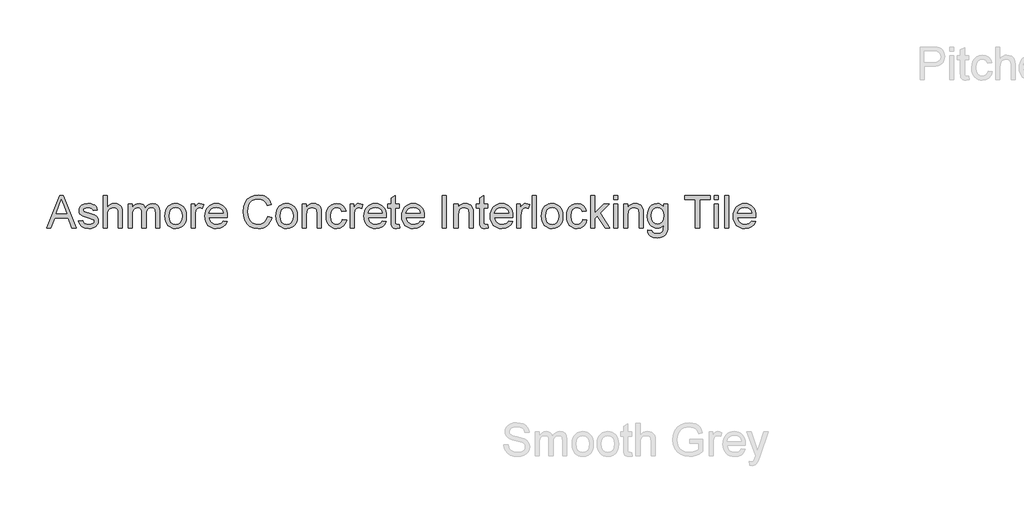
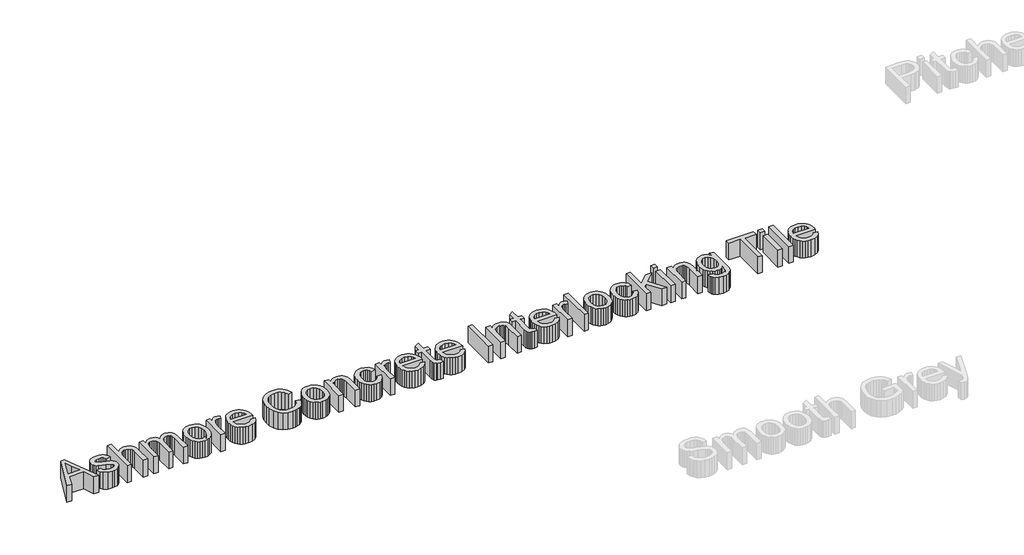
# One storey, part 2 of 4: 1 proxy.
"""IFC4 building model written with IfcOpenShell, lengths in millimetres."""

import ifcopenshell
import ifcopenshell.guid

model = None  # the IFC model being written
_history = None  # IfcOwnerHistory: only IFC2X3 demands one
_inside = {}  # id of a spatial element -> (the spatial element, [elements in it])
_under = {}  # id of a project, library or spatial element -> (it, [spatial elements below it])
_declared = {}  # id of a project -> (the project, [libraries it declares])
_typed = {}  # id of a type object -> (the type object, [elements of that type])
_made_of = {}  # id of a material, layer set ... -> (it, [elements and type objects made of it])


def new_model(schema):
    """Start an empty IFC model of exactly this schema.

    Asked for "IFC4X3", IfcOpenShell would pick the latest addendum, in which some entities
    have other attributes; the version numbers below select the first issue.
    IFC2X3 requires an IfcOwnerHistory on every rooted entity: one is made here for all.
    """
    global model, _history
    if schema == "IFC4X3":
        model = ifcopenshell.file(schema_version=(4, 3, 0, 0))
    else:
        model = ifcopenshell.file(schema=schema)
    _inside.clear()
    _under.clear()
    _declared.clear()
    _typed.clear()
    _made_of.clear()
    _history = None
    if model.schema == "IFC2X3":
        org = make("IfcOrganization", Name="unknown")
        user = make(
            "IfcPersonAndOrganization",
            ThePerson=make("IfcPerson", FamilyName="unknown"),
            TheOrganization=org,
        )
        app = make(
            "IfcApplication",
            ApplicationDeveloper=org,
            Version="unknown",
            ApplicationFullName="unknown",
            ApplicationIdentifier="unknown",
        )
        _history = make(
            "IfcOwnerHistory",
            OwningUser=user,
            OwningApplication=app,
            ChangeAction="ADDED",
            CreationDate=0,
        )
    return model


def make(cls, **values):
    """One entity of the class cls with the attributes given. An attribute that is None is left unset."""
    return model.create_entity(
        cls, **{name: value for name, value in values.items() if value is not None}
    )


def rooted(cls, **values):
    """An entity with a GlobalId (a new one), such as an element, a storey or a relation."""
    return make(cls, GlobalId=ifcopenshell.guid.new(), OwnerHistory=_history, **values)


def si_unit(unit_type, name, prefix=None):
    """IfcSIUnit, for example si_unit("LENGTHUNIT", "METRE", prefix="MILLI")."""
    return make("IfcSIUnit", UnitType=unit_type, Prefix=prefix, Name=name)


def assignment(units):
    """IfcUnitAssignment: the units of a project."""
    return None if units is None else make("IfcUnitAssignment", Units=units)


def point(xyz):
    """IfcCartesianPoint."""
    return None if xyz is None else make("IfcCartesianPoint", Coordinates=xyz)


def direction(xyz):
    """IfcDirection."""
    return None if xyz is None else make("IfcDirection", DirectionRatios=xyz)


def frame(location, z_axis=None, x_axis=None):
    """IfcAxis2Placement3D, a coordinate frame: its origin and axes. An axis left out is left unset."""
    return make(
        "IfcAxis2Placement3D",
        Location=point(location),
        Axis=direction(z_axis),
        RefDirection=direction(x_axis),
    )


def origin():
    """The frame at (0, 0, 0) with its axes left unset."""
    return frame((0.0, 0.0, 0.0))


def place(relative_to, where):
    """IfcLocalPlacement: puts the frame where relative to a parent placement (None: the world)."""
    return make(
        "IfcLocalPlacement", PlacementRelTo=relative_to, RelativePlacement=where
    )


def context(
    kind, dimensions, precision=None, world=None, true_north=None, identifier=None
):
    """IfcGeometricRepresentationContext, for example the 3D "Model" context."""
    return make(
        "IfcGeometricRepresentationContext",
        ContextIdentifier=identifier,
        ContextType=kind,
        CoordinateSpaceDimension=dimensions,
        Precision=precision,
        WorldCoordinateSystem=world,
        TrueNorth=true_north,
    )


def project(units=None, contexts=None):
    """IfcProject with its units and contexts."""
    return rooted(
        "IfcProject",
        Name="project",
        RepresentationContexts=contexts,
        UnitsInContext=assignment(units),
    )


def spatial(cls, under=None, at=None, **own):
    """A site, building, storey or space (cls), placed at a placement, below another one or the project."""
    s = rooted(cls, ObjectPlacement=at, **own)
    if under is not None:
        _under.setdefault(under.id(), (under, []))[1].append(s)
    return s


def polyline(points):
    """IfcPolyline through the points."""
    return make("IfcPolyline", Points=[point(p) for p in points])


def outline(outer, holes=None, kind="AREA"):
    """IfcArbitraryClosedProfileDef: a profile drawn as a closed curve; with holes, ...WithVoids."""
    if holes is None:
        return make("IfcArbitraryClosedProfileDef", ProfileType=kind, OuterCurve=outer)
    return make(
        "IfcArbitraryProfileDefWithVoids",
        ProfileType=kind,
        OuterCurve=outer,
        InnerCurves=holes,
    )


def extrude(swept, where, along, depth):
    """IfcExtrudedAreaSolid: the profile swept, set in the frame where, extruded along a direction by depth."""
    return make(
        "IfcExtrudedAreaSolid",
        SweptArea=swept,
        Position=where,
        ExtrudedDirection=direction(along),
        Depth=depth,
    )


def shape(context_of_items, identifier, shape_type, items):
    """IfcShapeRepresentation: the items that make up one representation, for example the "Body"."""
    return make(
        "IfcShapeRepresentation",
        ContextOfItems=context_of_items,
        RepresentationIdentifier=identifier,
        RepresentationType=shape_type,
        Items=items,
    )


def made_of(thing, what):
    """Note that an element or type object is made of a material, layer set ...; save() writes the relation."""
    if what is not None:
        _made_of.setdefault(what.id(), (what, []))[1].append(thing)
    return thing


def element(
    cls,
    number,
    at=None,
    inside=None,
    cuts=None,
    type_object=None,
    material=None,
    context=None,
    identifier="Body",
    shape_type=None,
    held_by="IfcProductDefinitionShape",
    body=None,
    shapes=None,
    **own,
):
    """One element of the class cls, such as IfcWall. Its Tag is "e" and its number.

    at: its placement. inside: the storey or other place that contains it. cuts: it is an
    opening in that element (IfcRelVoidsElement). A single representation is given by context,
    identifier, shape_type and body (its items); several are given by shapes. held_by: the class
    of the entity that holds the representations. save() writes the other relations.
    """
    e = rooted(cls, Tag="e%d" % number, ObjectPlacement=at, **own)
    if body is not None:
        shapes = [shape(context, identifier, shape_type, body)]
    if shapes is not None:
        e.Representation = make(held_by, Representations=shapes)
    if inside is not None:
        _inside.setdefault(inside.id(), (inside, []))[1].append(e)
    if cuts is not None:
        rooted(
            "IfcRelVoidsElement", RelatingBuildingElement=cuts, RelatedOpeningElement=e
        )
    if type_object is not None:
        _typed.setdefault(type_object.id(), (type_object, []))[1].append(e)
    return made_of(e, material)


def aggregate(whole, parts):
    """IfcRelAggregates: a whole, such as a stair, and the parts it consists of."""
    return rooted("IfcRelAggregates", RelatingObject=whole, RelatedObjects=parts)


def save(model, path):
    """Write the relations noted so far, then the file.

    IfcRelAggregates (storeys below a building ...), IfcRelContainedInSpatialStructure (elements
    in a storey), IfcRelDefinesByType, IfcRelAssociatesMaterial and IfcRelDeclares: one each for
    every whole, place, type object, material and project.
    """
    for whole, parts in _under.values():
        aggregate(whole, parts)
    for where, things in _inside.values():
        rooted(
            "IfcRelContainedInSpatialStructure",
            RelatedElements=things,
            RelatingStructure=where,
        )
    for kind, things in _typed.values():
        rooted("IfcRelDefinesByType", RelatedObjects=things, RelatingType=kind)
    for what, things in _made_of.values():
        rooted("IfcRelAssociatesMaterial", RelatedObjects=things, RelatingMaterial=what)
    for by, libraries in _declared.values():
        rooted("IfcRelDeclares", RelatingContext=by, RelatedDefinitions=libraries)
    model.write(path)


model = new_model("IFC4")

# Units and contexts
model_context = context("Model", 3, world=origin())
ifc_project = project(units=[si_unit("LENGTHUNIT", "METRE", prefix="MILLI")], contexts=[model_context])

# Site, building, storey
site = spatial("IfcSite", under=ifc_project)
building = spatial("IfcBuilding", under=site)
storey = spatial("IfcBuildingStorey", under=building, Name="Marley Concrete Interlocking Tiles", Elevation=3000.0)

# Proxy
placement = place(None, origin())
element("IfcBuildingElementProxy", 1, Name="600mm Arial", ObjectType="600mm Arial", at=placement, inside=storey, context=model_context, shape_type="SweptSolid", body=[
    extrude(outline(polyline([(-17060.9563584, 2995.6508715), (-16943.0477045, 3291.0354869), (-16911.6053968, 3291.0354869), (-16793.696743, 2995.6508715), (-16832.7111661, 2995.6508715), (-16866.5332814, 3087.9585638), (-16988.1919353, 3087.9585638), (-17021.9419353, 2995.6508715), (-17060.9563584, 2995.6508715)]), holes=[polyline([(-16974.634243, 3124.8816408), (-16880.0188584, 3124.8816408), (-16906.6294353, 3197.5018331), (-16927.3265507, 3254.11241), (-16945.7159737, 3203.8479869), (-16974.634243, 3124.8816408)])]), frame((0.0, 0.0, 3000.0), z_axis=(0.0, 0.0, 1.0), x_axis=(1.0, 0.0, 0.0)), (0.0, 0.0, 1.0), 150.0),
    extrude(outline(polyline([(-16772.7111661, 3060.2662561), (-16735.7880891, 3064.8816408), (-16729.9647718, 3049.0883715), (-16718.696743, 3037.4777946), (-16701.9118872, 3030.3383715), (-16679.5380891, 3027.9585638), (-16657.4347237, 3030.1400542), (-16641.8938584, 3036.6845254), (-16632.6991468, 3046.1676984), (-16629.634243, 3057.1652946), (-16632.7171757, 3066.5763523), (-16641.9659737, 3073.7518331), (-16679.9707814, 3084.2806792), (-16735.571743, 3102.3455831), (-16749.6432574, 3111.4231071), (-16759.8385699, 3123.4393331), (-16766.0314786, 3137.628035), (-16768.0957814, 3153.2229869), (-16766.4371276, 3167.5288763), (-16761.4611661, 3180.7350061), (-16753.618618, 3192.3185398), (-16743.3602045, 3201.7566408), (-16719.8866468, 3212.6821215), (-16688.1198199, 3217.1893331), (-16664.087368, 3215.377434), (-16643.1919353, 3209.9417369), (-16626.3890507, 3201.4140927), (-16614.634243, 3190.3263523), (-16606.8457814, 3175.8582033), (-16601.9419353, 3157.1893331), (-16638.8650122, 3152.5739484), (-16643.5254689, 3164.1935398), (-16652.7472237, 3172.9465446), (-16666.6204209, 3178.4363283), (-16685.2352045, 3180.2662561), (-16706.4371276, 3178.5174581), (-16720.571743, 3173.2710638), (-16728.5224641, 3165.6989484), (-16731.1727045, 3156.9729869), (-16726.7736661, 3146.2277946), (-16712.9996276, 3138.0787561), (-16681.196743, 3130.2181792), (-16627.0020314, 3112.8383715), (-16612.6871276, 3104.5270734), (-16601.8337622, 3093.1508715), (-16594.9918151, 3078.6737081), (-16592.7111661, 3061.0595254), (-16595.3884497, 3042.8503908), (-16603.4203007, 3025.7229869), (-16616.5002286, 3011.0204629), (-16634.321743, 3000.0859677), (-16655.8481853, 2993.2981071), (-16680.0428968, 2991.0354869), (-16717.2724641, 2995.3984677), (-16744.4419353, 3008.48741), (-16762.5789545, 3030.1580831), (-16772.7111661, 3060.2662561)])), frame((0.0, 0.0, 3000.0), z_axis=(0.0, 0.0, 1.0), x_axis=(1.0, 0.0, 0.0)), (0.0, 0.0, 1.0), 150.0),
    extrude(outline(polyline([(-16551.1727045, 2995.6508715), (-16551.1727045, 3291.0354869), (-16514.2496276, 3291.0354869), (-16514.2496276, 3182.4297177), (-16500.6874281, 3197.6370494), (-16485.4575603, 3208.4994292), (-16468.5600242, 3215.0168571), (-16449.9948199, 3217.1893331), (-16427.6931372, 3214.8185398), (-16408.5284737, 3207.70616), (-16393.4383295, 3196.4110879), (-16383.3602045, 3181.4922177), (-16377.681118, 3160.9934196), (-16375.7880891, 3132.9585638), (-16375.7880891, 2995.6508715), (-16412.7111661, 2995.6508715), (-16412.7111661, 3129.1364484), (-16415.649868, 3152.2494292), (-16424.4659737, 3168.0787561), (-16438.6727045, 3177.2193811), (-16457.7832814, 3180.2662561), (-16473.3872478, 3178.2109677), (-16488.0356853, 3172.0451023), (-16500.1690987, 3162.3636119), (-16508.227993, 3149.7614484), (-16512.7442189, 3133.0126504), (-16514.2496276, 3110.8912561), (-16514.2496276, 2995.6508715), (-16551.1727045, 2995.6508715)])), frame((0.0, 0.0, 3000.0), z_axis=(0.0, 0.0, 1.0), x_axis=(1.0, 0.0, 0.0)), (0.0, 0.0, 1.0), 150.0),
    extrude(outline(polyline([(-16325.0188584, 2995.6508715), (-16325.0188584, 3212.5739484), (-16288.0957814, 3212.5739484), (-16288.0957814, 3176.8768331), (-16276.9900122, 3193.2740686), (-16262.7111661, 3206.1196215), (-16245.7460218, 3214.4219052), (-16226.5813584, 3217.1893331), (-16206.0465026, 3214.3678186), (-16189.5861661, 3205.9032754), (-16177.290493, 3192.3545975), (-16169.2496276, 3174.2806792), (-16155.7910939, 3193.0532153), (-16140.4395314, 3206.4621696), (-16123.1949401, 3214.5075422), (-16104.0573199, 3217.1893331), (-16076.3019112, 3212.7271936), (-16055.7760699, 3199.3407754), (-16043.0927766, 3176.6695013), (-16038.8650122, 3144.3527946), (-16038.8650122, 2995.6508715), (-16075.7880891, 2995.6508715), (-16075.7880891, 3128.48741), (-16079.2135699, 3159.3167369), (-16084.0272718, 3167.8173379), (-16091.6174161, 3174.4970254), (-16101.3800362, 3178.8239484), (-16112.7111661, 3180.2662561), (-16132.7141709, 3176.5703427), (-16149.0212622, 3165.4826023), (-16159.8656132, 3146.2458234), (-16163.4803968, 3118.1027946), (-16163.4803968, 2995.6508715), (-16200.4034737, 2995.6508715), (-16200.4034737, 3132.5979869), (-16202.539892, 3153.4753908), (-16208.9491468, 3168.3672177), (-16220.2261901, 3177.2914965), (-16236.9659737, 3180.2662561), (-16251.1907334, 3178.2830831), (-16264.2977045, 3172.3335638), (-16275.1150122, 3162.5619292), (-16282.4707814, 3149.11241), (-16286.6895314, 3130.4525542), (-16288.0957814, 3105.04991), (-16288.0957814, 2995.6508715), (-16325.0188584, 2995.6508715)])), frame((0.0, 0.0, 3000.0), z_axis=(0.0, 0.0, 1.0), x_axis=(1.0, 0.0, 0.0)), (0.0, 0.0, 1.0), 150.0),
    extrude(outline(polyline([(-15992.7111661, 3104.11241), (-15990.7144713, 3132.2058595), (-15984.7243872, 3156.4140927), (-15974.7409136, 3176.7371095), (-15960.7640507, 3193.17491), (-15946.6925362, 3203.6812201), (-15931.1606853, 3211.1857273), (-15914.1684978, 3215.6884316), (-15895.7159737, 3217.1893331), (-15875.3456312, 3215.3616588), (-15856.9269112, 3209.8786359), (-15840.4598139, 3200.7402646), (-15825.9443391, 3187.9465446), (-15814.0971336, 3171.9301684), (-15805.6348439, 3153.1238283), (-15800.5574701, 3131.5275242), (-15798.8650122, 3107.1412561), (-15801.8578007, 3069.8395734), (-15810.8361661, 3041.4441408), (-15825.5386901, 3020.1791167), (-15845.7039545, 3004.26866), (-15869.6552766, 2994.3437802), (-15895.7159737, 2991.0354869), (-15916.3837923, 2992.8564004), (-15934.9737862, 2998.3191408), (-15951.4859557, 3007.4237081), (-15965.9203007, 3020.1701023), (-15977.6413043, 3036.3419773), (-15986.0134497, 3055.7229869), (-15991.036737, 3078.3131311), (-15992.7111661, 3104.11241)]), holes=[polyline([(-15955.7880891, 3104.1845254), (-15951.5152526, 3070.768059), (-15938.696743, 3046.9609677), (-15919.4058776, 3032.7091648), (-15895.7159737, 3027.9585638), (-15872.134243, 3032.7362081), (-15852.8794353, 3047.0691408), (-15840.0609257, 3071.1917369), (-15835.7880891, 3105.3383715), (-15840.0879689, 3137.7812802), (-15852.9876084, 3161.2638523), (-15872.2694593, 3175.5156552), (-15895.7159737, 3180.2662561), (-15919.4058776, 3175.533684), (-15938.696743, 3161.3359677), (-15951.5152526, 3137.5829629), (-15955.7880891, 3104.1845254)])]), frame((0.0, 0.0, 3000.0), z_axis=(0.0, 0.0, 1.0), x_axis=(1.0, 0.0, 0.0)), (0.0, 0.0, 1.0), 150.0),
    extrude(outline(polyline([(-15757.3265507, 2995.6508715), (-15757.3265507, 3212.5739484), (-15725.0188584, 3212.5739484), (-15725.0188584, 3180.4826023), (-15713.0837622, 3199.0883715), (-15702.0861661, 3210.04991), (-15691.0525122, 3215.4044773), (-15679.009243, 3217.1893331), (-15660.6198199, 3214.3407754), (-15641.9419353, 3205.7951023), (-15654.2736661, 3172.6941408), (-15667.2544353, 3178.3732273), (-15680.2352045, 3180.2662561), (-15691.2598439, 3178.4453427), (-15701.1126084, 3172.9826023), (-15709.0723439, 3164.2926984), (-15714.4178968, 3152.7902946), (-15718.9070795, 3132.1652946), (-15720.4034737, 3109.6652946), (-15720.4034737, 2995.6508715), (-15757.3265507, 2995.6508715)])), frame((0.0, 0.0, 3000.0), z_axis=(0.0, 0.0, 1.0), x_axis=(1.0, 0.0, 0.0)), (0.0, 0.0, 1.0), 150.0),
    extrude(outline(polyline([(-15466.9900122, 3060.2662561), (-15430.7880891, 3055.6508715), (-15443.8319593, 3028.3732273), (-15464.6462622, 3007.9826023), (-15492.7622478, 2995.2722658), (-15527.7111661, 2991.0354869), (-15550.6213223, 2992.8631612), (-15571.0344834, 2998.346184), (-15588.9506492, 3007.4845554), (-15604.3698199, 3020.2782754), (-15616.7691588, 3036.3712742), (-15625.6258295, 3055.4074821), (-15630.9398319, 3077.3868992), (-15632.7111661, 3102.3095254), (-15630.9218031, 3128.0772537), (-15625.5537141, 3150.7890927), (-15616.6068992, 3170.4450422), (-15604.0813584, 3187.0451023), (-15588.7027526, 3200.2332033), (-15571.196743, 3209.6532754), (-15551.5633295, 3215.3053186), (-15529.8025122, 3217.1893331), (-15508.7425663, 3215.3098258), (-15489.6973439, 3209.6713042), (-15472.6668451, 3200.2737682), (-15457.6510699, 3187.1172177), (-15445.3937081, 3170.5532153), (-15436.6384497, 3150.9333234), (-15431.3852947, 3128.2575422), (-15429.634243, 3102.5258715), (-15429.8505891, 3092.5739484), (-15595.7880891, 3092.5739484), (-15589.3968632, 3064.9357273), (-15574.5501084, 3044.6172177), (-15553.1228247, 3032.1232273), (-15526.9900122, 3027.9585638), (-15507.3385699, 3029.8876504), (-15490.7880891, 3035.67491), (-15477.3385699, 3045.6809196), (-15466.9900122, 3060.2662561)]), holes=[polyline([(-15595.7880891, 3129.4970254), (-15466.5573199, 3129.4970254), (-15471.5513103, 3149.0042369), (-15481.3409737, 3162.9585638), (-15502.8674161, 3175.9393331), (-15529.946743, 3180.2662561), (-15554.8355651, 3176.8137321), (-15575.415493, 3166.45616), (-15589.7213824, 3150.3113283), (-15595.7880891, 3129.4970254)])]), frame((0.0, 0.0, 3000.0), z_axis=(0.0, 0.0, 1.0), x_axis=(1.0, 0.0, 0.0)), (0.0, 0.0, 1.0), 150.0),
    extrude(outline(polyline([(-15065.0188584, 3100.6508715), (-15028.0957814, 3091.1316408), (-15035.4019713, 3068.1696516), (-15045.1330411, 3048.1057994), (-15057.2889906, 3030.9400843), (-15071.8698199, 3016.6725061), (-15088.5465026, 3005.4563102), (-15106.9900122, 2997.4447417), (-15127.2003487, 2992.6378006), (-15149.1775122, 2991.0354869), (-15192.0050362, 2995.8852465), (-15226.0164545, 3010.4345254), (-15252.0861661, 3034.1785158), (-15271.0885699, 3066.61241), (-15282.6901324, 3104.7434196), (-15286.5573199, 3145.5787561), (-15282.1853247, 3188.6496696), (-15269.0693391, 3225.8431792), (-15247.8944593, 3255.9783956), (-15219.3457814, 3277.8744292), (-15185.4876084, 3291.2067609), (-15148.384243, 3295.6508715), (-15107.9004689, 3289.8996696), (-15090.2885399, 3282.7106672), (-15074.4299161, 3272.6460638), (-15060.5860158, 3259.971785), (-15049.0182574, 3244.9537561), (-15032.7111661, 3207.8864484), (-15069.634243, 3199.0883715), (-15082.4347237, 3226.0144533), (-15099.9227045, 3244.4850061), (-15122.3145314, 3255.1670975), (-15149.8265507, 3258.7277946), (-15181.5392911, 3254.7794773), (-15207.5909737, 3242.9345254), (-15227.3596036, 3224.4369292), (-15240.2231853, 3200.5306792), (-15247.2814786, 3173.5054388), (-15249.634243, 3145.6508715), (-15246.8487862, 3111.5402946), (-15238.4924161, 3082.0451023), (-15224.2496276, 3058.2920975), (-15203.8049161, 3041.4080831), (-15179.2946997, 3031.3209436), (-15152.8553968, 3027.9585638), (-15122.0350843, 3032.5378908), (-15096.352993, 3046.2758715), (-15076.9629689, 3069.0282754), (-15065.0188584, 3100.6508715)])), frame((0.0, 0.0, 3000.0), z_axis=(0.0, 0.0, 1.0), x_axis=(1.0, 0.0, 0.0)), (0.0, 0.0, 1.0), 150.0),
    extrude(outline(polyline([(-14991.1727045, 3104.11241), (-14989.1760098, 3132.2058595), (-14983.1859257, 3156.4140927), (-14973.2024521, 3176.7371095), (-14959.2255891, 3193.17491), (-14945.1540747, 3203.6812201), (-14929.6222237, 3211.1857273), (-14912.6300362, 3215.6884316), (-14894.1775122, 3217.1893331), (-14873.8071697, 3215.3616588), (-14855.3884497, 3209.8786359), (-14838.9213524, 3200.7402646), (-14824.4058776, 3187.9465446), (-14812.5586721, 3171.9301684), (-14804.0963824, 3153.1238283), (-14799.0190086, 3131.5275242), (-14797.3265507, 3107.1412561), (-14800.3193391, 3069.8395734), (-14809.2977045, 3041.4441408), (-14824.0002286, 3020.1791167), (-14844.165493, 3004.26866), (-14868.1168151, 2994.3437802), (-14894.1775122, 2991.0354869), (-14914.8453307, 2992.8564004), (-14933.4353247, 2998.3191408), (-14949.9474942, 3007.4237081), (-14964.3818391, 3020.1701023), (-14976.1028427, 3036.3419773), (-14984.4749882, 3055.7229869), (-14989.4982754, 3078.3131311), (-14991.1727045, 3104.11241)]), holes=[polyline([(-14954.2496276, 3104.1845254), (-14949.9767911, 3070.768059), (-14937.1582814, 3046.9609677), (-14917.8674161, 3032.7091648), (-14894.1775122, 3027.9585638), (-14870.5957814, 3032.7362081), (-14851.3409737, 3047.0691408), (-14838.5224641, 3071.1917369), (-14834.2496276, 3105.3383715), (-14838.5495074, 3137.7812802), (-14851.4491468, 3161.2638523), (-14870.7309978, 3175.5156552), (-14894.1775122, 3180.2662561), (-14917.8674161, 3175.533684), (-14937.1582814, 3161.3359677), (-14949.9767911, 3137.5829629), (-14954.2496276, 3104.1845254)])]), frame((0.0, 0.0, 3000.0), z_axis=(0.0, 0.0, 1.0), x_axis=(1.0, 0.0, 0.0)), (0.0, 0.0, 1.0), 150.0),
    extrude(outline(polyline([(-14755.7880891, 2995.6508715), (-14755.7880891, 3212.5739484), (-14718.8650122, 3212.5739484), (-14718.8650122, 3182.2854869), (-14706.0374882, 3197.5559196), (-14690.6318391, 3208.4633715), (-14672.6480651, 3215.0078427), (-14652.0861661, 3217.1893331), (-14633.8860459, 3215.4315206), (-14617.2183776, 3210.1580831), (-14603.3181372, 3202.0270734), (-14593.4203007, 3191.6965446), (-14582.3505891, 3164.5451023), (-14580.4034737, 3128.8479869), (-14580.4034737, 2995.6508715), (-14617.3265507, 2995.6508715), (-14617.3265507, 3123.8720254), (-14621.5813584, 3156.5402946), (-14627.4677766, 3166.2668571), (-14636.6174161, 3173.8119292), (-14648.3451805, 3178.6526744), (-14661.9659737, 3180.2662561), (-14683.5915747, 3176.6424581), (-14702.0260699, 3165.7710638), (-14709.3931072, 3156.8963643), (-14714.6552766, 3144.7674581), (-14718.8650122, 3110.7470254), (-14718.8650122, 2995.6508715), (-14755.7880891, 2995.6508715)])), frame((0.0, 0.0, 3000.0), z_axis=(0.0, 0.0, 1.0), x_axis=(1.0, 0.0, 0.0)), (0.0, 0.0, 1.0), 150.0),
    extrude(outline(polyline([(-14391.1727045, 3074.11241), (-14354.2496276, 3069.4970254), (-14364.5440987, 3036.6574821), (-14383.8890507, 3011.8407754), (-14410.4635699, 2996.236809), (-14442.446743, 2991.0354869), (-14463.1551264, 2992.8496396), (-14481.7225843, 2998.2920975), (-14498.1491168, 3007.3628607), (-14512.4347237, 3020.0619292), (-14523.9979749, 3036.1504208), (-14532.2574401, 3055.3894533), (-14537.2131192, 3077.7790266), (-14538.8650122, 3103.3191408), (-14536.0434978, 3136.1767129), (-14527.5789545, 3164.6532754), (-14513.3361661, 3187.6490686), (-14493.1799161, 3204.0643331), (-14469.0663343, 3213.9080831), (-14442.9515507, 3217.1893331), (-14411.7526324, 3212.6821215), (-14386.8097237, 3199.1604869), (-14368.9160939, 3177.3455831), (-14358.8650122, 3147.9585638), (-14395.7880891, 3143.3431792), (-14402.4858055, 3159.4519533), (-14412.915493, 3170.9994292), (-14426.5002286, 3177.9495494), (-14442.6630891, 3180.2662561), (-14466.524267, 3175.7049581), (-14485.4635699, 3162.0210638), (-14497.8223439, 3138.4753908), (-14501.9419353, 3104.3287561), (-14497.9124882, 3069.7223859), (-14485.8241468, 3046.0955831), (-14467.227392, 3032.4928186), (-14443.6727045, 3027.9585638), (-14424.5531132, 3030.7890927), (-14408.8770314, 3039.2806792), (-14397.4737862, 3053.6496696), (-14391.1727045, 3074.11241)])), frame((0.0, 0.0, 3000.0), z_axis=(0.0, 0.0, 1.0), x_axis=(1.0, 0.0, 0.0)), (0.0, 0.0, 1.0), 150.0),
    extrude(outline(polyline([(-14321.9419353, 2995.6508715), (-14321.9419353, 3212.5739484), (-14289.634243, 3212.5739484), (-14289.634243, 3180.4826023), (-14277.6991468, 3199.0883715), (-14266.7015507, 3210.04991), (-14255.6678968, 3215.4044773), (-14243.6246276, 3217.1893331), (-14225.2352045, 3214.3407754), (-14206.5573199, 3205.7951023), (-14218.8890507, 3172.6941408), (-14231.8698199, 3178.3732273), (-14244.8505891, 3180.2662561), (-14255.8752286, 3178.4453427), (-14265.727993, 3172.9826023), (-14273.6877286, 3164.2926984), (-14279.0332814, 3152.7902946), (-14283.5224641, 3132.1652946), (-14285.0188584, 3109.6652946), (-14285.0188584, 2995.6508715), (-14321.9419353, 2995.6508715)])), frame((0.0, 0.0, 3000.0), z_axis=(0.0, 0.0, 1.0), x_axis=(1.0, 0.0, 0.0)), (0.0, 0.0, 1.0), 150.0),
    extrude(outline(polyline([(-14031.6053968, 3060.2662561), (-13995.4034737, 3055.6508715), (-14008.4473439, 3028.3732273), (-14029.2616468, 3007.9826023), (-14057.3776324, 2995.2722658), (-14092.3265507, 2991.0354869), (-14115.2367069, 2992.8631612), (-14135.649868, 2998.346184), (-14153.5660338, 3007.4845554), (-14168.9852045, 3020.2782754), (-14181.3845435, 3036.3712742), (-14190.2412141, 3055.4074821), (-14195.5552165, 3077.3868992), (-14197.3265507, 3102.3095254), (-14195.5371877, 3128.0772537), (-14190.1690987, 3150.7890927), (-14181.2222838, 3170.4450422), (-14168.696743, 3187.0451023), (-14153.3181372, 3200.2332033), (-14135.8121276, 3209.6532754), (-14116.1787141, 3215.3053186), (-14094.4178968, 3217.1893331), (-14073.3579509, 3215.3098258), (-14054.3127286, 3209.6713042), (-14037.2822298, 3200.2737682), (-14022.2664545, 3187.1172177), (-14010.0090927, 3170.5532153), (-14001.2538343, 3150.9333234), (-13996.0006793, 3128.2575422), (-13994.2496276, 3102.5258715), (-13994.4659737, 3092.5739484), (-14160.4034737, 3092.5739484), (-14154.0122478, 3064.9357273), (-14139.165493, 3044.6172177), (-14117.7382093, 3032.1232273), (-14091.6053968, 3027.9585638), (-14071.9539545, 3029.8876504), (-14055.4034737, 3035.67491), (-14041.9539545, 3045.6809196), (-14031.6053968, 3060.2662561)]), holes=[polyline([(-14160.4034737, 3129.4970254), (-14031.1727045, 3129.4970254), (-14036.1666949, 3149.0042369), (-14045.9563584, 3162.9585638), (-14067.4828007, 3175.9393331), (-14094.5621276, 3180.2662561), (-14119.4509497, 3176.8137321), (-14140.0308776, 3166.45616), (-14154.336767, 3150.3113283), (-14160.4034737, 3129.4970254)])]), frame((0.0, 0.0, 3000.0), z_axis=(0.0, 0.0, 1.0), x_axis=(1.0, 0.0, 0.0)), (0.0, 0.0, 1.0), 150.0),
    extrude(outline(polyline([(-13878.8650122, 3026.4441408), (-13874.2496276, 2994.5691408), (-13901.8698199, 2991.0354869), (-13919.5921757, 2992.5679388), (-13932.8073199, 2997.1652946), (-13942.1462622, 3004.2506311), (-13948.2400122, 3013.2470254), (-13951.5933776, 3028.6977465), (-13952.7111661, 3055.1460638), (-13952.7111661, 3175.6508715), (-13980.4034737, 3175.6508715), (-13980.4034737, 3212.5739484), (-13952.7111661, 3212.5739484), (-13952.7111661, 3265.2902946), (-13915.7880891, 3286.9970254), (-13915.7880891, 3212.5739484), (-13878.8650122, 3212.5739484), (-13878.8650122, 3175.6508715), (-13915.7880891, 3175.6508715), (-13915.7880891, 3056.2277946), (-13913.8409737, 3037.1893331), (-13907.5308776, 3030.4465446), (-13894.946743, 3027.9585638), (-13878.8650122, 3026.4441408)])), frame((0.0, 0.0, 3000.0), z_axis=(0.0, 0.0, 1.0), x_axis=(1.0, 0.0, 0.0)), (0.0, 0.0, 1.0), 150.0),
    extrude(outline(polyline([(-13690.0669353, 3060.2662561), (-13653.8650122, 3055.6508715), (-13666.9088824, 3028.3732273), (-13687.7231853, 3007.9826023), (-13715.8391709, 2995.2722658), (-13750.7880891, 2991.0354869), (-13773.6982454, 2992.8631612), (-13794.1114064, 2998.346184), (-13812.0275723, 3007.4845554), (-13827.446743, 3020.2782754), (-13839.8460819, 3036.3712742), (-13848.7027526, 3055.4074821), (-13854.016755, 3077.3868992), (-13855.7880891, 3102.3095254), (-13853.9987261, 3128.0772537), (-13848.6306372, 3150.7890927), (-13839.6838223, 3170.4450422), (-13827.1582814, 3187.0451023), (-13811.7796757, 3200.2332033), (-13794.2736661, 3209.6532754), (-13774.6402526, 3215.3053186), (-13752.8794353, 3217.1893331), (-13731.8194894, 3215.3098258), (-13712.774267, 3209.6713042), (-13695.7437682, 3200.2737682), (-13680.727993, 3187.1172177), (-13668.4706312, 3170.5532153), (-13659.7153728, 3150.9333234), (-13654.4622177, 3128.2575422), (-13652.7111661, 3102.5258715), (-13652.9275122, 3092.5739484), (-13818.8650122, 3092.5739484), (-13812.4737862, 3064.9357273), (-13797.6270314, 3044.6172177), (-13776.1997478, 3032.1232273), (-13750.0669353, 3027.9585638), (-13730.415493, 3029.8876504), (-13713.8650122, 3035.67491), (-13700.415493, 3045.6809196), (-13690.0669353, 3060.2662561)]), holes=[polyline([(-13818.8650122, 3129.4970254), (-13689.634243, 3129.4970254), (-13694.6282334, 3149.0042369), (-13704.4178968, 3162.9585638), (-13725.9443391, 3175.9393331), (-13753.0236661, 3180.2662561), (-13777.9124882, 3176.8137321), (-13798.4924161, 3166.45616), (-13812.7983055, 3150.3113283), (-13818.8650122, 3129.4970254)])]), frame((0.0, 0.0, 3000.0), z_axis=(0.0, 0.0, 1.0), x_axis=(1.0, 0.0, 0.0)), (0.0, 0.0, 1.0), 150.0),
    extrude(outline(polyline([(-13491.1727045, 2995.6508715), (-13491.1727045, 3291.0354869), (-13454.2496276, 3291.0354869), (-13454.2496276, 2995.6508715), (-13491.1727045, 2995.6508715)])), frame((0.0, 0.0, 3000.0), z_axis=(0.0, 0.0, 1.0), x_axis=(1.0, 0.0, 0.0)), (0.0, 0.0, 1.0), 150.0),
    extrude(outline(polyline([(-13385.0188584, 2995.6508715), (-13385.0188584, 3212.5739484), (-13348.0957814, 3212.5739484), (-13348.0957814, 3182.2854869), (-13335.2682574, 3197.5559196), (-13319.8626084, 3208.4633715), (-13301.8788343, 3215.0078427), (-13281.3169353, 3217.1893331), (-13263.1168151, 3215.4315206), (-13246.4491468, 3210.1580831), (-13232.5489064, 3202.0270734), (-13222.6510699, 3191.6965446), (-13211.5813584, 3164.5451023), (-13209.634243, 3128.8479869), (-13209.634243, 2995.6508715), (-13246.5573199, 2995.6508715), (-13246.5573199, 3123.8720254), (-13250.8121276, 3156.5402946), (-13256.6985459, 3166.2668571), (-13265.8481853, 3173.8119292), (-13277.5759497, 3178.6526744), (-13291.196743, 3180.2662561), (-13312.8223439, 3176.6424581), (-13331.2568391, 3165.7710638), (-13338.6238764, 3156.8963643), (-13343.8860459, 3144.7674581), (-13348.0957814, 3110.7470254), (-13348.0957814, 2995.6508715), (-13385.0188584, 2995.6508715)])), frame((0.0, 0.0, 3000.0), z_axis=(0.0, 0.0, 1.0), x_axis=(1.0, 0.0, 0.0)), (0.0, 0.0, 1.0), 150.0),
    extrude(outline(polyline([(-13080.4034737, 3026.4441408), (-13075.7880891, 2994.5691408), (-13103.4082814, 2991.0354869), (-13121.1306372, 2992.5679388), (-13134.3457814, 2997.1652946), (-13143.6847237, 3004.2506311), (-13149.7784737, 3013.2470254), (-13153.1318391, 3028.6977465), (-13154.2496276, 3055.1460638), (-13154.2496276, 3175.6508715), (-13181.9419353, 3175.6508715), (-13181.9419353, 3212.5739484), (-13154.2496276, 3212.5739484), (-13154.2496276, 3265.2902946), (-13117.3265507, 3286.9970254), (-13117.3265507, 3212.5739484), (-13080.4034737, 3212.5739484), (-13080.4034737, 3175.6508715), (-13117.3265507, 3175.6508715), (-13117.3265507, 3056.2277946), (-13115.3794353, 3037.1893331), (-13109.0693391, 3030.4465446), (-13096.4852045, 3027.9585638), (-13080.4034737, 3026.4441408)])), frame((0.0, 0.0, 3000.0), z_axis=(0.0, 0.0, 1.0), x_axis=(1.0, 0.0, 0.0)), (0.0, 0.0, 1.0), 150.0),
    extrude(outline(polyline([(-12891.6053968, 3060.2662561), (-12855.4034737, 3055.6508715), (-12868.4473439, 3028.3732273), (-12889.2616468, 3007.9826023), (-12917.3776324, 2995.2722658), (-12952.3265507, 2991.0354869), (-12975.2367069, 2992.8631612), (-12995.649868, 2998.346184), (-13013.5660338, 3007.4845554), (-13028.9852045, 3020.2782754), (-13041.3845435, 3036.3712742), (-13050.2412141, 3055.4074821), (-13055.5552165, 3077.3868992), (-13057.3265507, 3102.3095254), (-13055.5371877, 3128.0772537), (-13050.1690987, 3150.7890927), (-13041.2222838, 3170.4450422), (-13028.696743, 3187.0451023), (-13013.3181372, 3200.2332033), (-12995.8121276, 3209.6532754), (-12976.1787141, 3215.3053186), (-12954.4178968, 3217.1893331), (-12933.3579509, 3215.3098258), (-12914.3127286, 3209.6713042), (-12897.2822298, 3200.2737682), (-12882.2664545, 3187.1172177), (-12870.0090927, 3170.5532153), (-12861.2538343, 3150.9333234), (-12856.0006793, 3128.2575422), (-12854.2496276, 3102.5258715), (-12854.4659737, 3092.5739484), (-13020.4034737, 3092.5739484), (-13014.0122478, 3064.9357273), (-12999.165493, 3044.6172177), (-12977.7382093, 3032.1232273), (-12951.6053968, 3027.9585638), (-12931.9539545, 3029.8876504), (-12915.4034737, 3035.67491), (-12901.9539545, 3045.6809196), (-12891.6053968, 3060.2662561)]), holes=[polyline([(-13020.4034737, 3129.4970254), (-12891.1727045, 3129.4970254), (-12896.1666949, 3149.0042369), (-12905.9563584, 3162.9585638), (-12927.4828007, 3175.9393331), (-12954.5621276, 3180.2662561), (-12979.4509497, 3176.8137321), (-13000.0308776, 3166.45616), (-13014.336767, 3150.3113283), (-13020.4034737, 3129.4970254)])]), frame((0.0, 0.0, 3000.0), z_axis=(0.0, 0.0, 1.0), x_axis=(1.0, 0.0, 0.0)), (0.0, 0.0, 1.0), 150.0),
    extrude(outline(polyline([(-12817.3265507, 2995.6508715), (-12817.3265507, 3212.5739484), (-12785.0188584, 3212.5739484), (-12785.0188584, 3180.4826023), (-12773.0837622, 3199.0883715), (-12762.0861661, 3210.04991), (-12751.0525122, 3215.4044773), (-12739.009243, 3217.1893331), (-12720.6198199, 3214.3407754), (-12701.9419353, 3205.7951023), (-12714.2736661, 3172.6941408), (-12727.2544353, 3178.3732273), (-12740.2352045, 3180.2662561), (-12751.2598439, 3178.4453427), (-12761.1126084, 3172.9826023), (-12769.0723439, 3164.2926984), (-12774.4178968, 3152.7902946), (-12778.9070795, 3132.1652946), (-12780.4034737, 3109.6652946), (-12780.4034737, 2995.6508715), (-12817.3265507, 2995.6508715)])), frame((0.0, 0.0, 3000.0), z_axis=(0.0, 0.0, 1.0), x_axis=(1.0, 0.0, 0.0)), (0.0, 0.0, 1.0), 150.0),
    extrude(outline(polyline([(-12678.8650122, 2995.6508715), (-12678.8650122, 3291.0354869), (-12641.9419353, 3291.0354869), (-12641.9419353, 2995.6508715), (-12678.8650122, 2995.6508715)])), frame((0.0, 0.0, 3000.0), z_axis=(0.0, 0.0, 1.0), x_axis=(1.0, 0.0, 0.0)), (0.0, 0.0, 1.0), 150.0),
    extrude(outline(polyline([(-12595.7880891, 3104.11241), (-12593.7913944, 3132.2058595), (-12587.8013103, 3156.4140927), (-12577.8178367, 3176.7371095), (-12563.8409737, 3193.17491), (-12549.7694593, 3203.6812201), (-12534.2376084, 3211.1857273), (-12517.2454209, 3215.6884316), (-12498.7928968, 3217.1893331), (-12478.4225543, 3215.3616588), (-12460.0038343, 3209.8786359), (-12443.536737, 3200.7402646), (-12429.0212622, 3187.9465446), (-12417.1740567, 3171.9301684), (-12408.711767, 3153.1238283), (-12403.6343932, 3131.5275242), (-12401.9419353, 3107.1412561), (-12404.9347237, 3069.8395734), (-12413.9130891, 3041.4441408), (-12428.6156132, 3020.1791167), (-12448.7808776, 3004.26866), (-12472.7321997, 2994.3437802), (-12498.7928968, 2991.0354869), (-12519.4607153, 2992.8564004), (-12538.0507093, 2998.3191408), (-12554.5628788, 3007.4237081), (-12568.9972237, 3020.1701023), (-12580.7182274, 3036.3419773), (-12589.0903728, 3055.7229869), (-12594.11366, 3078.3131311), (-12595.7880891, 3104.11241)]), holes=[polyline([(-12558.8650122, 3104.1845254), (-12554.5921757, 3070.768059), (-12541.7736661, 3046.9609677), (-12522.4828007, 3032.7091648), (-12498.7928968, 3027.9585638), (-12475.2111661, 3032.7362081), (-12455.9563584, 3047.0691408), (-12443.1378487, 3071.1917369), (-12438.8650122, 3105.3383715), (-12443.164892, 3137.7812802), (-12456.0645314, 3161.2638523), (-12475.3463824, 3175.5156552), (-12498.7928968, 3180.2662561), (-12522.4828007, 3175.533684), (-12541.7736661, 3161.3359677), (-12554.5921757, 3137.5829629), (-12558.8650122, 3104.1845254)])]), frame((0.0, 0.0, 3000.0), z_axis=(0.0, 0.0, 1.0), x_axis=(1.0, 0.0, 0.0)), (0.0, 0.0, 1.0), 150.0),
    extrude(outline(polyline([(-12221.9419353, 3074.11241), (-12185.0188584, 3069.4970254), (-12195.3133295, 3036.6574821), (-12214.6582814, 3011.8407754), (-12241.2328007, 2996.236809), (-12273.2159737, 2991.0354869), (-12293.9243572, 2992.8496396), (-12312.4918151, 2998.2920975), (-12328.9183475, 3007.3628607), (-12343.2039545, 3020.0619292), (-12354.7672057, 3036.1504208), (-12363.0266709, 3055.3894533), (-12367.9823499, 3077.7790266), (-12369.634243, 3103.3191408), (-12366.8127286, 3136.1767129), (-12358.3481853, 3164.6532754), (-12344.1053968, 3187.6490686), (-12323.9491468, 3204.0643331), (-12299.8355651, 3213.9080831), (-12273.7207814, 3217.1893331), (-12242.5218632, 3212.6821215), (-12217.5789545, 3199.1604869), (-12199.6853247, 3177.3455831), (-12189.634243, 3147.9585638), (-12226.5573199, 3143.3431792), (-12233.2550362, 3159.4519533), (-12243.6847237, 3170.9994292), (-12257.2694593, 3177.9495494), (-12273.4323199, 3180.2662561), (-12297.2934978, 3175.7049581), (-12316.2328007, 3162.0210638), (-12328.5915747, 3138.4753908), (-12332.7111661, 3104.3287561), (-12328.6817189, 3069.7223859), (-12316.5933776, 3046.0955831), (-12297.9966228, 3032.4928186), (-12274.4419353, 3027.9585638), (-12255.3223439, 3030.7890927), (-12239.6462622, 3039.2806792), (-12228.243017, 3053.6496696), (-12221.9419353, 3074.11241)])), frame((0.0, 0.0, 3000.0), z_axis=(0.0, 0.0, 1.0), x_axis=(1.0, 0.0, 0.0)), (0.0, 0.0, 1.0), 150.0),
    extrude(outline(polyline([(-12152.7111661, 2995.6508715), (-12152.7111661, 3291.0354869), (-12115.7880891, 3291.0354869), (-12115.7880891, 3132.3095254), (-12032.9996276, 3212.5739484), (-11981.9419353, 3212.5739484), (-12065.7400122, 3131.29991), (-11977.3265507, 2995.6508715), (-12020.4515507, 2995.6508715), (-12092.2063584, 3105.6268331), (-12115.7880891, 3082.7662561), (-12115.7880891, 2995.6508715), (-12152.7111661, 2995.6508715)])), frame((0.0, 0.0, 3000.0), z_axis=(0.0, 0.0, 1.0), x_axis=(1.0, 0.0, 0.0)), (0.0, 0.0, 1.0), 150.0),
    extrude(outline(polyline([(-11945.0188584, 3254.11241), (-11945.0188584, 3291.0354869), (-11908.0957814, 3291.0354869), (-11908.0957814, 3254.11241), (-11945.0188584, 3254.11241)])), frame((0.0, 0.0, 3000.0), z_axis=(0.0, 0.0, 1.0), x_axis=(1.0, 0.0, 0.0)), (0.0, 0.0, 1.0), 150.0),
    extrude(outline(polyline([(-11945.0188584, 2995.6508715), (-11945.0188584, 3212.5739484), (-11908.0957814, 3212.5739484), (-11908.0957814, 2995.6508715), (-11945.0188584, 2995.6508715)])), frame((0.0, 0.0, 3000.0), z_axis=(0.0, 0.0, 1.0), x_axis=(1.0, 0.0, 0.0)), (0.0, 0.0, 1.0), 150.0),
    extrude(outline(polyline([(-11852.7111661, 2995.6508715), (-11852.7111661, 3212.5739484), (-11815.7880891, 3212.5739484), (-11815.7880891, 3182.2854869), (-11802.9605651, 3197.5559196), (-11787.5549161, 3208.4633715), (-11769.571142, 3215.0078427), (-11749.009243, 3217.1893331), (-11730.8091228, 3215.4315206), (-11714.1414545, 3210.1580831), (-11700.2412141, 3202.0270734), (-11690.3433776, 3191.6965446), (-11679.2736661, 3164.5451023), (-11677.3265507, 3128.8479869), (-11677.3265507, 2995.6508715), (-11714.2496276, 2995.6508715), (-11714.2496276, 3123.8720254), (-11718.5044353, 3156.5402946), (-11724.3908536, 3166.2668571), (-11733.540493, 3173.8119292), (-11745.2682574, 3178.6526744), (-11758.8890507, 3180.2662561), (-11780.5146516, 3176.6424581), (-11798.9491468, 3165.7710638), (-11806.3161841, 3156.8963643), (-11811.5783536, 3144.7674581), (-11815.7880891, 3110.7470254), (-11815.7880891, 2995.6508715), (-11852.7111661, 2995.6508715)])), frame((0.0, 0.0, 3000.0), z_axis=(0.0, 0.0, 1.0), x_axis=(1.0, 0.0, 0.0)), (0.0, 0.0, 1.0), 150.0),
    extrude(outline(polyline([(-11635.7880891, 2977.1893331), (-11598.8650122, 2972.5739484), (-11594.790493, 2961.0354869), (-11586.8938584, 2953.1027946), (-11571.3710218, 2946.9369292), (-11551.0525122, 2944.8816408), (-11529.3818391, 2947.2073619), (-11513.2640507, 2954.1845254), (-11502.0861661, 2965.36241), (-11495.2352045, 2980.2902946), (-11492.7111661, 3023.3431792), (-11504.9978247, 3011.2277946), (-11518.7087622, 3002.5739484), (-11533.8439786, 2997.3816408), (-11550.4034737, 2995.6508715), (-11570.6476144, 2997.6655951), (-11588.4713824, 3003.7097658), (-11603.8747778, 3013.7833835), (-11616.8578007, 3027.8864484), (-11627.1590326, 3044.8065206), (-11634.5170555, 3063.33116), (-11640.4034737, 3105.1941408), (-11637.7622478, 3135.0048379), (-11629.8385699, 3162.4176984), (-11616.9118872, 3185.6478667), (-11599.2616468, 3202.9104869), (-11577.4918151, 3213.6196215), (-11552.2063584, 3217.1893331), (-11534.939231, 3215.1701023), (-11519.2676564, 3209.11241), (-11505.1916348, 3199.0162561), (-11492.7111661, 3184.8816408), (-11492.7111661, 3212.5739484), (-11455.7880891, 3212.5739484), (-11455.7880891, 3025.2902946), (-11458.3121276, 2982.0481071), (-11465.884243, 2953.5715446), (-11478.9281132, 2934.6863283), (-11497.8674161, 2920.2181792), (-11522.2874882, 2911.0234677), (-11551.7736661, 2907.9585638), (-11586.1276324, 2912.2764725), (-11613.1799161, 2925.2301984), (-11623.3684677, 2934.9545073), (-11630.5326805, 2946.8557994), (-11634.6725543, 2960.9340746), (-11635.7880891, 2977.1893331)]), holes=[polyline([(-11603.4803968, 3107.7181792), (-11599.5410939, 3073.8509917), (-11587.7231853, 3050.5667369), (-11569.9557574, 3037.0721456), (-11548.1678968, 3032.5739484), (-11526.5422959, 3037.0451023), (-11508.6847237, 3050.4585638), (-11496.7045555, 3073.4453427), (-11492.7111661, 3106.6364484), (-11496.821743, 3138.6466648), (-11509.1534737, 3161.6965446), (-11527.2724641, 3175.6238283), (-11548.7448199, 3180.2662561), (-11569.8295555, 3175.6959436), (-11587.5068391, 3161.9850061), (-11599.4870074, 3139.2776744), (-11603.4803968, 3107.7181792)])]), frame((0.0, 0.0, 3000.0), z_axis=(0.0, 0.0, 1.0), x_axis=(1.0, 0.0, 0.0)), (0.0, 0.0, 1.0), 150.0),
    extrude(outline(polyline([(-11206.5573199, 2995.6508715), (-11206.5573199, 3254.11241), (-11303.4803968, 3254.11241), (-11303.4803968, 3291.0354869), (-11072.7111661, 3291.0354869), (-11072.7111661, 3254.11241), (-11169.634243, 3254.11241), (-11169.634243, 2995.6508715), (-11206.5573199, 2995.6508715)])), frame((0.0, 0.0, 3000.0), z_axis=(0.0, 0.0, 1.0), x_axis=(1.0, 0.0, 0.0)), (0.0, 0.0, 1.0), 150.0),
    extrude(outline(polyline([(-11035.7880891, 2995.6508715), (-11035.7880891, 3212.5739484), (-10998.8650122, 3212.5739484), (-10998.8650122, 2995.6508715), (-11035.7880891, 2995.6508715)])), frame((0.0, 0.0, 3000.0), z_axis=(0.0, 0.0, 1.0), x_axis=(1.0, 0.0, 0.0)), (0.0, 0.0, 1.0), 150.0),
    extrude(outline(polyline([(-11035.7880891, 3254.11241), (-11035.7880891, 3291.0354869), (-10998.8650122, 3291.0354869), (-10998.8650122, 3254.11241), (-11035.7880891, 3254.11241)])), frame((0.0, 0.0, 3000.0), z_axis=(0.0, 0.0, 1.0), x_axis=(1.0, 0.0, 0.0)), (0.0, 0.0, 1.0), 150.0),
    extrude(outline(polyline([(-10943.4803968, 2995.6508715), (-10943.4803968, 3291.0354869), (-10906.5573199, 3291.0354869), (-10906.5573199, 2995.6508715), (-10943.4803968, 2995.6508715)])), frame((0.0, 0.0, 3000.0), z_axis=(0.0, 0.0, 1.0), x_axis=(1.0, 0.0, 0.0)), (0.0, 0.0, 1.0), 150.0),
    extrude(outline(polyline([(-10699.2977045, 3060.2662561), (-10663.0957814, 3055.6508715), (-10676.1396516, 3028.3732273), (-10696.9539545, 3007.9826023), (-10725.0699401, 2995.2722658), (-10760.0188584, 2991.0354869), (-10782.9290146, 2992.8631612), (-10803.3421757, 2998.346184), (-10821.2583415, 3007.4845554), (-10836.6775122, 3020.2782754), (-10849.0768511, 3036.3712742), (-10857.9335218, 3055.4074821), (-10863.2475242, 3077.3868992), (-10865.0188584, 3102.3095254), (-10863.2294954, 3128.0772537), (-10857.8614064, 3150.7890927), (-10848.9145915, 3170.4450422), (-10836.3890507, 3187.0451023), (-10821.0104449, 3200.2332033), (-10803.5044353, 3209.6532754), (-10783.8710218, 3215.3053186), (-10762.1102045, 3217.1893331), (-10741.0502586, 3215.3098258), (-10722.0050362, 3209.6713042), (-10704.9745374, 3200.2737682), (-10689.9587622, 3187.1172177), (-10677.7014004, 3170.5532153), (-10668.946142, 3150.9333234), (-10663.692987, 3128.2575422), (-10661.9419353, 3102.5258715), (-10662.1582814, 3092.5739484), (-10828.0957814, 3092.5739484), (-10821.7045555, 3064.9357273), (-10806.8578007, 3044.6172177), (-10785.430517, 3032.1232273), (-10759.2977045, 3027.9585638), (-10739.6462622, 3029.8876504), (-10723.0957814, 3035.67491), (-10709.6462622, 3045.6809196), (-10699.2977045, 3060.2662561)]), holes=[polyline([(-10828.0957814, 3129.4970254), (-10698.8650122, 3129.4970254), (-10703.8590026, 3149.0042369), (-10713.6486661, 3162.9585638), (-10735.1751084, 3175.9393331), (-10762.2544353, 3180.2662561), (-10787.1432574, 3176.8137321), (-10807.7231853, 3166.45616), (-10822.0290747, 3150.3113283), (-10828.0957814, 3129.4970254)])]), frame((0.0, 0.0, 3000.0), z_axis=(0.0, 0.0, 1.0), x_axis=(1.0, 0.0, 0.0)), (0.0, 0.0, 1.0), 150.0),
])

save(model, "model.ifc")
